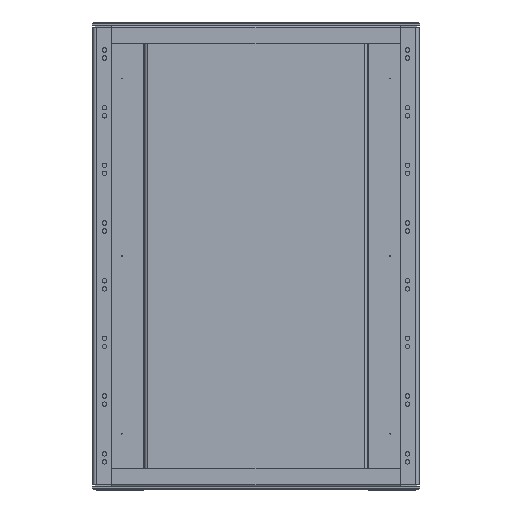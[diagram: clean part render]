
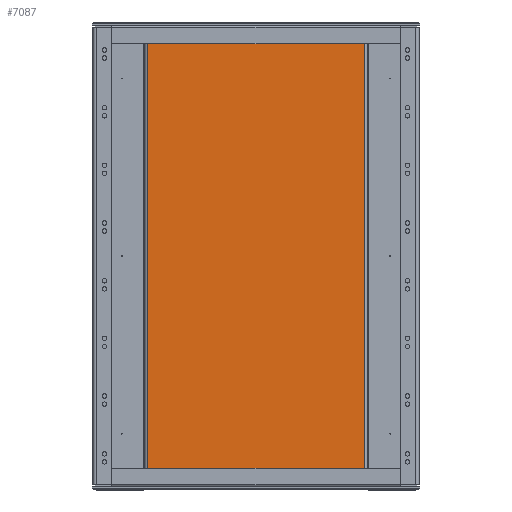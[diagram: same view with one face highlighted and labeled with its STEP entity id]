
A CAD part, top view. The second image highlights one B-rep face of the part: STEP entity #7087.
In plain terms, the highlighted planar face has unit normal (0, 0, 1).
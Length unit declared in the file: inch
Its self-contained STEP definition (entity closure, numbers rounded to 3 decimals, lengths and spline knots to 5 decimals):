
#228 = VERTEX_POINT ( 'NONE', #4338 ) ;
#318 = CARTESIAN_POINT ( 'NONE',  ( 15.62001, 7.46399, 0.128 ) ) ;
#402 = PLANE ( 'NONE',  #4290 ) ;
#589 = VERTEX_POINT ( 'NONE', #7047 ) ;
#746 = LINE ( 'NONE', #2999, #2513 ) ;
#977 = DIRECTION ( 'NONE',  ( 0., -1., 0. ) ) ;
#1262 = ORIENTED_EDGE ( 'NONE', *, *, #2778, .T. ) ;
#1421 = LINE ( 'NONE', #5488, #7226 ) ;
#1477 = DIRECTION ( 'NONE',  ( -1., 0., 0. ) ) ;
#1484 = ORIENTED_EDGE ( 'NONE', *, *, #2016, .F. ) ;
#1927 = DIRECTION ( 'NONE',  ( -1., 0., 0. ) ) ;
#2016 = EDGE_CURVE ( 'NONE', #228, #3268, #2195, .T. ) ;
#2195 = LINE ( 'NONE', #318, #5962 ) ;
#2513 = VECTOR ( 'NONE', #1477, 39.37008 ) ;
#2707 = ORIENTED_EDGE ( 'NONE', *, *, #9577, .F. ) ;
#2778 = EDGE_CURVE ( 'NONE', #228, #7249, #9177, .T. ) ;
#2851 = DIRECTION ( 'NONE',  ( -1., 0., 0. ) ) ;
#2999 = CARTESIAN_POINT ( 'NONE',  ( 15.62001, -7.38399, 0.128 ) ) ;
#3268 = VERTEX_POINT ( 'NONE', #8707 ) ;
#4093 = DIRECTION ( 'NONE',  ( 0., -1., 0. ) ) ;
#4290 = AXIS2_PLACEMENT_3D ( 'NONE', #5676, #6441, #1927 ) ;
#4338 = CARTESIAN_POINT ( 'NONE',  ( 15.62001, 7.38399, 0.128 ) ) ;
#5226 = EDGE_CURVE ( 'NONE', #7249, #589, #1421, .T. ) ;
#5488 = CARTESIAN_POINT ( 'NONE',  ( -15.62001, 7.46399, 0.128 ) ) ;
#5676 = CARTESIAN_POINT ( 'NONE',  ( 15.62001, 7.46399, 0.128 ) ) ;
#5962 = VECTOR ( 'NONE', #4093, 39.37008 ) ;
#6110 = EDGE_LOOP ( 'NONE', ( #6523, #2707, #1484, #1262 ) ) ;
#6441 = DIRECTION ( 'NONE',  ( 0., 0., -1. ) ) ;
#6523 = ORIENTED_EDGE ( 'NONE', *, *, #5226, .T. ) ;
#7047 = CARTESIAN_POINT ( 'NONE',  ( -15.62001, -7.38399, 0.128 ) ) ;
#7087 = ADVANCED_FACE ( 'NONE', ( #7089 ), #402, .F. ) ;
#7089 = FACE_OUTER_BOUND ( 'NONE', #6110, .T. ) ;
#7158 = VECTOR ( 'NONE', #2851, 39.37008 ) ;
#7226 = VECTOR ( 'NONE', #977, 39.37008 ) ;
#7249 = VERTEX_POINT ( 'NONE', #9632 ) ;
#7390 = CARTESIAN_POINT ( 'NONE',  ( 15.62001, 7.38399, 0.128 ) ) ;
#8707 = CARTESIAN_POINT ( 'NONE',  ( 15.62001, -7.38399, 0.128 ) ) ;
#9177 = LINE ( 'NONE', #7390, #7158 ) ;
#9577 = EDGE_CURVE ( 'NONE', #3268, #589, #746, .T. ) ;
#9632 = CARTESIAN_POINT ( 'NONE',  ( -15.62001, 7.38399, 0.128 ) ) ;
